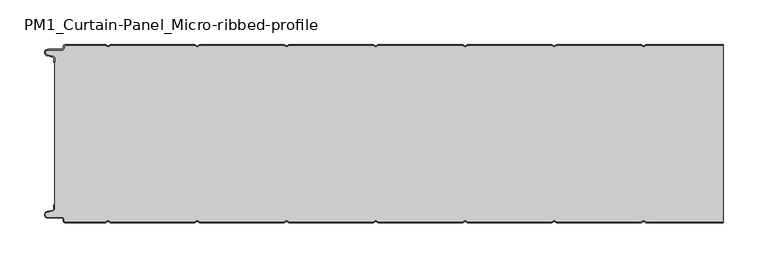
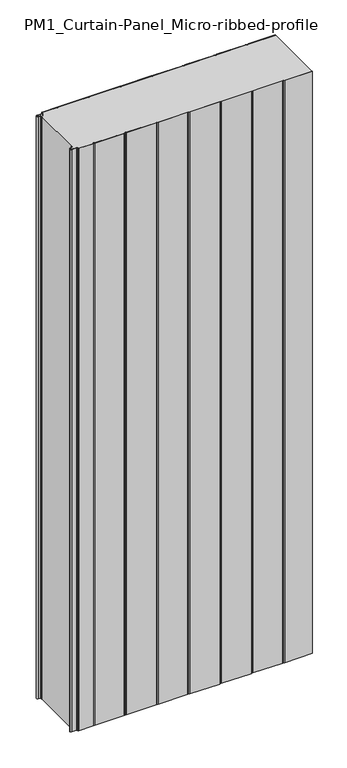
"""IFC4 building model written with IfcOpenShell, lengths in millimetres: plate geometry, PM1_Curtain-Panel_Micro-ribbed-profile : ACH_PM1_Stone-wool-Panel_200M."""

from ifc_helpers import new_model, si_unit, point, frame_2d, origin, origin_with_axes, place, context, project, spatial, polyline, circle_curve, trimmed, segment, composite_curve, outline, extrude, source, transform, mapped, element, save


def pm1_curtain_panel_micro_ribbed_profile_b77677c2(model_context):
    return source(origin(), model_context, "Body", "SweptSolid", [
        extrude(outline(composite_curve([segment(trimmed(circle_curve(frame_2d((-377.0119739, -15.878557)), 2.0), [point((-375.0119739, -15.878557))], [point((-376.5620718, -13.9298169))], True, "CARTESIAN"), True, "CONTINUOUS"), segment(polyline([(-376.5620718, -13.9298169), (-382.7217978, -12.507732)]), True, "CONTINUOUS"), segment(trimmed(circle_curve(frame_2d((-381.9119739, -9.0)), 3.6), [point((-382.7217978, -12.507732))], [point((-381.9119739, -5.4))], False, "CARTESIAN"), True, "CONTINUOUS"), segment(polyline([(-381.9119739, -5.4), (-366.4119739, -5.4)]), True, "CONTINUOUS"), segment(trimmed(circle_curve(frame_2d((-366.4119739, -3.4)), 2.0), [point((-366.4119739, -5.4))], [point((-364.4119739, -3.4))], True, "CARTESIAN"), True, "CONTINUOUS"), segment(polyline([(-364.4119739, -3.4), (-364.4119739, -2.0)]), True, "CONTINUOUS"), segment(trimmed(circle_curve(frame_2d((-362.4119739, -2.0)), 2.0), [point((-364.4119739, -2.0))], [point((-362.4119739, 0.0))], False, "CARTESIAN"), True, "CONTINUOUS"), segment(polyline([(-362.4119739, 0.0), (-317.1119734, 0.0), (-314.4119739, -1.5588455), (-311.7119745, 0.0), (-217.1119734, 0.0), (-214.4119739, -1.5588455), (-211.7119745, 0.0), (-117.1119734, 0.0), (-114.4119739, -1.5588455), (-111.7119745, 0.0), (-17.1119734, 0.0), (-14.4119739, -1.5588455), (-11.7119745, 0.0), (82.8880266, 0.0), (85.5880261, -1.5588455), (88.2880255, 0.0), (182.8880266, 0.0), (185.5880261, -1.5588455), (188.2880255, 0.0), (282.8880266, 0.0), (285.5880261, -1.5588455), (288.2880255, 0.0), (375.0119739, 0.0), (375.0119739, -0.8), (288.5023849, -0.8), (285.5880261, -2.482606), (282.6736672, -0.8), (188.5023849, -0.8), (185.5880261, -2.482606), (182.6736672, -0.8), (88.5023849, -0.8), (85.5880261, -2.482606), (82.6736672, -0.8), (-11.4976151, -0.8), (-14.4119739, -2.482606), (-17.3263328, -0.8), (-111.4976151, -0.8), (-114.4119739, -2.482606), (-117.3263328, -0.8), (-211.4976151, -0.8), (-214.4119739, -2.482606), (-217.3263328, -0.8), (-311.4976151, -0.8), (-314.4119739, -2.482606), (-317.3263328, -0.8), (-362.4119739, -0.8)]), True, "CONTINUOUS"), segment(trimmed(circle_curve(frame_2d((-362.4119739, -2.0)), 1.2), [point((-362.4119739, -0.8))], [point((-363.6119739, -2.0))], True, "CARTESIAN"), True, "CONTINUOUS"), segment(polyline([(-363.6119739, -2.0), (-363.6119739, -3.4)]), True, "CONTINUOUS"), segment(trimmed(circle_curve(frame_2d((-366.4119739, -3.4)), 2.8), [point((-363.6119739, -3.4))], [point((-366.4119739, -6.2))], False, "CARTESIAN"), True, "CONTINUOUS"), segment(polyline([(-366.4119739, -6.2), (-381.9119739, -6.2)]), True, "CONTINUOUS"), segment(trimmed(circle_curve(frame_2d((-381.9119739, -9.0)), 2.8), [point((-381.9119739, -6.2))], [point((-382.541837, -11.7282362))], True, "CARTESIAN"), True, "CONTINUOUS"), segment(polyline([(-382.541837, -11.7282362), (-376.3821109, -13.150321)]), True, "CONTINUOUS"), segment(trimmed(circle_curve(frame_2d((-377.0119739, -15.878557)), 2.8), [point((-376.3821109, -13.150321))], [point((-374.2119739, -15.878557))], False, "CARTESIAN"), True, "CONTINUOUS"), segment(polyline([(-374.2119739, -15.878557), (-374.2119739, -20.0), (-375.0119739, -20.0), (-375.0119739, -15.878557)]), True, "CONTINUOUS")], self_intersect=False)), origin_with_axes(), (0.0, 0.0, 1.0), 1945.7507136),
        extrude(outline(composite_curve([segment(polyline([(-374.2119739, -184.1214426), (-374.2119739, -15.8785573)]), True, "CONTINUOUS"), segment(trimmed(circle_curve(frame_2d((-377.0119739, -15.8785573)), 2.8), [point((-374.2119739, -15.8785573))], [point((-376.3821109, -13.1503212))], True, "CARTESIAN"), True, "CONTINUOUS"), segment(polyline([(-376.3821109, -13.1503212), (-382.541837, -11.7282362)]), True, "CONTINUOUS"), segment(trimmed(circle_curve(frame_2d((-381.911974, -9.0)), 2.8), [point((-382.541837, -11.7282362))], [point((-381.911974, -6.2))], False, "CARTESIAN"), True, "CONTINUOUS"), segment(polyline([(-381.911974, -6.2), (-366.411974, -6.2)]), True, "CONTINUOUS"), segment(trimmed(circle_curve(frame_2d((-366.411974, -3.4)), 2.8), [point((-366.411974, -6.2))], [point((-363.611974, -3.4))], True, "CARTESIAN"), True, "CONTINUOUS"), segment(polyline([(-363.611974, -3.4), (-363.611974, -2.0)]), True, "CONTINUOUS"), segment(trimmed(circle_curve(frame_2d((-362.411974, -2.0)), 1.2), [point((-363.611974, -2.0))], [point((-362.411974, -0.8))], False, "CARTESIAN"), True, "CONTINUOUS"), segment(polyline([(-362.411974, -0.8), (-317.3263329, -0.8), (-314.411974, -2.482606), (-311.4976152, -0.8), (-217.3263329, -0.8), (-214.411974, -2.482606), (-211.4976152, -0.8), (-117.3263329, -0.8), (-114.411974, -2.482606), (-111.4976152, -0.8), (-17.3263329, -0.8), (-14.411974, -2.482606), (-11.4976152, -0.8), (82.6736671, -0.8), (85.588026, -2.482606), (88.5023848, -0.8), (182.6736671, -0.8), (185.588026, -2.482606), (188.5023848, -0.8), (282.6736671, -0.8), (285.588026, -2.482606), (288.5023848, -0.8), (375.0119739, -0.8), (375.0119739, -199.2), (288.5023848, -199.2), (285.588026, -197.517394), (282.6736671, -199.2), (188.5023848, -199.2), (185.588026, -197.517394), (182.6736671, -199.2), (88.5023848, -199.2), (85.588026, -197.517394), (82.6736671, -199.2), (-11.4976152, -199.2), (-14.411974, -197.517394), (-17.3263329, -199.2), (-111.4976152, -199.2), (-114.411974, -197.517394), (-117.3263329, -199.2), (-211.4976152, -199.2), (-214.411974, -197.517394), (-217.3263329, -199.2), (-311.4976152, -199.2), (-314.411974, -197.517394), (-317.3263329, -199.2), (-362.411974, -199.2)]), True, "CONTINUOUS"), segment(trimmed(circle_curve(frame_2d((-362.411974, -198.0)), 1.2), [point((-362.411974, -199.2))], [point((-363.611974, -198.0))], False, "CARTESIAN"), True, "CONTINUOUS"), segment(polyline([(-363.611974, -198.0), (-363.611974, -196.6)]), True, "CONTINUOUS"), segment(trimmed(circle_curve(frame_2d((-366.411974, -196.6)), 2.8), [point((-363.611974, -196.6))], [point((-366.411974, -193.8))], True, "CARTESIAN"), True, "CONTINUOUS"), segment(polyline([(-366.411974, -193.8), (-381.911974, -193.8)]), True, "CONTINUOUS"), segment(trimmed(circle_curve(frame_2d((-381.911974, -191.0)), 2.8), [point((-381.911974, -193.8))], [point((-382.541837, -188.2717638))], False, "CARTESIAN"), True, "CONTINUOUS"), segment(polyline([(-382.541837, -188.2717638), (-376.3821109, -186.8496788)]), True, "CONTINUOUS"), segment(trimmed(circle_curve(frame_2d((-377.0119739, -184.1214426)), 2.8), [point((-376.3821109, -186.8496788))], [point((-374.2119739, -184.1214426))], True, "CARTESIAN"), True, "CONTINUOUS")], self_intersect=False)), origin_with_axes(), (0.0, 0.0, 1.0), 1945.7507136),
        extrude(outline(composite_curve([segment(polyline([(-375.0119739, -184.121443), (-375.0119739, -180.0), (-374.2119739, -180.0), (-374.2119739, -184.121443)]), True, "CONTINUOUS"), segment(trimmed(circle_curve(frame_2d((-377.0119739, -184.121443)), 2.8), [point((-374.2119739, -184.121443))], [point((-376.3821109, -186.8496792))], False, "CARTESIAN"), True, "CONTINUOUS"), segment(polyline([(-376.3821109, -186.8496792), (-382.5418369, -188.271764)]), True, "CONTINUOUS"), segment(trimmed(circle_curve(frame_2d((-381.9119739, -191.0)), 2.8), [point((-382.5418369, -188.271764))], [point((-381.9119739, -193.8))], True, "CARTESIAN"), True, "CONTINUOUS"), segment(polyline([(-381.9119739, -193.8), (-366.4119739, -193.8)]), True, "CONTINUOUS"), segment(trimmed(circle_curve(frame_2d((-366.4119739, -196.6)), 2.8), [point((-366.4119739, -193.8))], [point((-363.6119739, -196.6))], False, "CARTESIAN"), True, "CONTINUOUS"), segment(polyline([(-363.6119739, -196.6), (-363.6119739, -198.0)]), True, "CONTINUOUS"), segment(trimmed(circle_curve(frame_2d((-362.4119739, -198.0)), 1.2), [point((-363.6119739, -198.0))], [point((-362.4119739, -199.2))], True, "CARTESIAN"), True, "CONTINUOUS"), segment(polyline([(-362.4119739, -199.2), (-317.3263328, -199.2), (-314.4119739, -197.517394), (-311.4976151, -199.2), (-217.3263328, -199.2), (-214.4119739, -197.517394), (-211.4976151, -199.2), (-117.3263328, -199.2), (-114.4119739, -197.517394), (-111.4976151, -199.2), (-17.3263328, -199.2), (-14.4119739, -197.517394), (-11.4976151, -199.2), (82.6736672, -199.2), (85.5880261, -197.517394), (88.5023849, -199.2), (182.6736672, -199.2), (185.5880261, -197.517394), (188.5023849, -199.2), (282.6736672, -199.2), (285.5880261, -197.517394), (288.5023849, -199.2), (375.0119739, -199.2), (375.0119739, -200.0), (288.2880255, -200.0), (285.5880261, -198.4411545), (282.8880266, -200.0), (188.2880255, -200.0), (185.5880261, -198.4411545), (182.8880266, -200.0), (88.2880255, -200.0), (85.5880261, -198.4411545), (82.8880266, -200.0), (-11.7119745, -200.0), (-14.4119739, -198.4411545), (-17.1119734, -200.0), (-111.7119745, -200.0), (-114.4119739, -198.4411545), (-117.1119734, -200.0), (-211.7119745, -200.0), (-214.4119739, -198.4411545), (-217.1119734, -200.0), (-311.7119745, -200.0), (-314.4119739, -198.4411545), (-317.1119734, -200.0), (-362.4119739, -200.0)]), True, "CONTINUOUS"), segment(trimmed(circle_curve(frame_2d((-362.4119739, -198.0)), 2.0), [point((-362.4119739, -200.0))], [point((-364.4119739, -198.0))], False, "CARTESIAN"), True, "CONTINUOUS"), segment(polyline([(-364.4119739, -198.0), (-364.4119739, -196.6)]), True, "CONTINUOUS"), segment(trimmed(circle_curve(frame_2d((-366.4119739, -196.6)), 2.0), [point((-364.4119739, -196.6))], [point((-366.4119739, -194.6))], True, "CARTESIAN"), True, "CONTINUOUS"), segment(polyline([(-366.4119739, -194.6), (-381.9119739, -194.6)]), True, "CONTINUOUS"), segment(trimmed(circle_curve(frame_2d((-381.9119739, -191.0)), 3.6), [point((-381.9119739, -194.6))], [point((-382.7217979, -187.4922678))], False, "CARTESIAN"), True, "CONTINUOUS"), segment(polyline([(-382.7217979, -187.4922678), (-376.5620718, -186.070183)]), True, "CONTINUOUS"), segment(trimmed(circle_curve(frame_2d((-377.0119739, -184.121443)), 2.0), [point((-376.5620718, -186.070183))], [point((-375.0119739, -184.121443))], True, "CARTESIAN"), True, "CONTINUOUS")], self_intersect=False)), origin_with_axes(), (0.0, 0.0, 1.0), 1945.7507136),
    ])


if __name__ == "__main__":
    model = new_model("IFC4")
    model_context = context("Model", 3, world=origin())
    ifc_project = project(units=[si_unit("LENGTHUNIT", "METRE", prefix="MILLI")], contexts=[model_context])
    site = spatial("IfcSite", under=ifc_project)
    building = spatial("IfcBuilding", under=site)
    placement = place(None, origin())
    pm1_curtain_panel_micro_ribbed_profile_shape = pm1_curtain_panel_micro_ribbed_profile_b77677c2(model_context)
    element("IfcPlate", 1, ObjectType="PM1_Curtain-Panel_Micro-ribbed-profile : ACH_PM1_Stone-wool-Panel_200M", at=placement, inside=building, context=model_context, shape_type="MappedRepresentation", body=[
        mapped(pm1_curtain_panel_micro_ribbed_profile_shape, transform((0.0, 0.0, 0.0), x_axis=(1.0, 0.0, 0.0), y_axis=(0.0, 1.0, 0.0), z_axis=(0.0, 0.0, 1.0))),
    ])
    save(model, "model.ifc")
